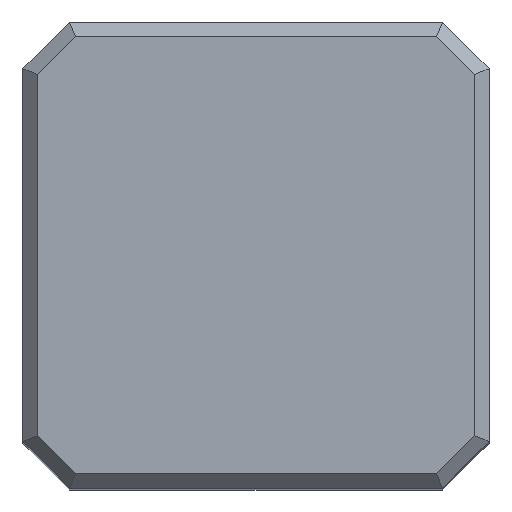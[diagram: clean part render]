
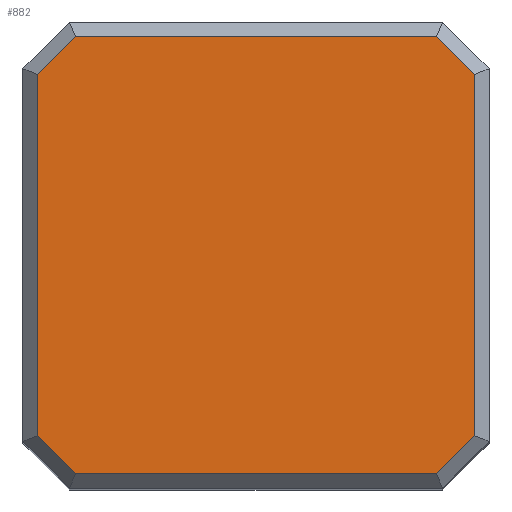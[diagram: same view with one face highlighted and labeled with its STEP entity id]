
A CAD part, top view. The second image highlights one B-rep face of the part: STEP entity #882.
In plain terms, the highlighted planar face has unit normal (0, 0, 1).
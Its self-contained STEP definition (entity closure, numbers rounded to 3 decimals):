
#144 = PLANE('',#145);
#145 = AXIS2_PLACEMENT_3D('',#146,#147,#148);
#146 = CARTESIAN_POINT('',(-6.3,-5.2,29.8));
#147 = DIRECTION('',(0.707,0.,-0.707));
#148 = DIRECTION('',(0.,1.,0.));
#176 = PLANE('',#177);
#177 = AXIS2_PLACEMENT_3D('',#178,#179,#180);
#178 = CARTESIAN_POINT('',(-6.359,-5.059,29.8));
#179 = DIRECTION('',(0.5,0.5,-0.707));
#180 = DIRECTION('',(0.707,-0.707,0.));
#327 = VERTEX_POINT('',#328);
#328 = CARTESIAN_POINT('',(-6.1,-5.034,30.));
#351 = VERTEX_POINT('',#352);
#352 = CARTESIAN_POINT('',(-6.1,5.034,30.));
#366 = PLANE('',#367);
#367 = AXIS2_PLACEMENT_3D('',#368,#369,#370);
#368 = CARTESIAN_POINT('',(-6.359,5.059,29.8));
#369 = DIRECTION('',(-0.5,0.5,0.707));
#370 = DIRECTION('',(0.707,0.707,0.)
  );
#378 = EDGE_CURVE('',#327,#351,#379,.T.);
#379 = SURFACE_CURVE('',#380,(#384,#391),.PCURVE_S1.);
#380 = LINE('',#381,#382);
#381 = CARTESIAN_POINT('',(-6.1,-5.2,30.));
#382 = VECTOR('',#383,1.);
#383 = DIRECTION('',(-0.,1.,0.));
#384 = PCURVE('',#144,#385);
#385 = DEFINITIONAL_REPRESENTATION('',(#386),#390);
#386 = LINE('',#387,#388);
#387 = CARTESIAN_POINT('',(0.,0.283));
#388 = VECTOR('',#389,1.);
#389 = DIRECTION('',(1.,0.));
#390 = ( GEOMETRIC_REPRESENTATION_CONTEXT(2) 
PARAMETRIC_REPRESENTATION_CONTEXT() REPRESENTATION_CONTEXT('2D SPACE',''
  ) );
#391 = PCURVE('',#392,#397);
#392 = PLANE('',#393);
#393 = AXIS2_PLACEMENT_3D('',#394,#395,#396);
#394 = CARTESIAN_POINT('',(-6.5,-6.5,30.));
#395 = DIRECTION('',(0.,0.,1.));
#396 = DIRECTION('',(1.,0.,-0.));
#397 = DEFINITIONAL_REPRESENTATION('',(#398),#402);
#398 = LINE('',#399,#400);
#399 = CARTESIAN_POINT('',(0.4,1.3));
#400 = VECTOR('',#401,1.);
#401 = DIRECTION('',(0.,1.));
#402 = ( GEOMETRIC_REPRESENTATION_CONTEXT(2) 
PARAMETRIC_REPRESENTATION_CONTEXT() REPRESENTATION_CONTEXT('2D SPACE',''
  ) );
#538 = EDGE_CURVE('',#327,#539,#541,.T.);
#539 = VERTEX_POINT('',#540);
#540 = CARTESIAN_POINT('',(-5.034,-6.1,30.));
#541 = SURFACE_CURVE('',#542,(#546,#553),.PCURVE_S1.);
#542 = LINE('',#543,#544);
#543 = CARTESIAN_POINT('',(-6.217,-4.917,30.));
#544 = VECTOR('',#545,1.);
#545 = DIRECTION('',(0.707,-0.707,0.));
#546 = PCURVE('',#176,#547);
#547 = DEFINITIONAL_REPRESENTATION('',(#548),#552);
#548 = LINE('',#549,#550);
#549 = CARTESIAN_POINT('',(0.,-0.283));
#550 = VECTOR('',#551,1.);
#551 = DIRECTION('',(1.,0.));
#552 = ( GEOMETRIC_REPRESENTATION_CONTEXT(2) 
PARAMETRIC_REPRESENTATION_CONTEXT() REPRESENTATION_CONTEXT('2D SPACE',''
  ) );
#553 = PCURVE('',#392,#554);
#554 = DEFINITIONAL_REPRESENTATION('',(#555),#559);
#555 = LINE('',#556,#557);
#556 = CARTESIAN_POINT('',(0.283,1.583));
#557 = VECTOR('',#558,1.);
#558 = DIRECTION('',(0.707,-0.707));
#559 = ( GEOMETRIC_REPRESENTATION_CONTEXT(2) 
PARAMETRIC_REPRESENTATION_CONTEXT() REPRESENTATION_CONTEXT('2D SPACE',''
  ) );
#575 = PLANE('',#576);
#576 = AXIS2_PLACEMENT_3D('',#577,#578,#579);
#577 = CARTESIAN_POINT('',(-5.2,-6.3,29.8));
#578 = DIRECTION('',(0.,0.707,-0.707));
#579 = DIRECTION('',(1.,-0.,0.));
#882 = ADVANCED_FACE('',(#883),#392,.T.);
#883 = FACE_BOUND('',#884,.T.);
#884 = EDGE_LOOP('',(#885,#886,#887,#910,#938,#966,#994,#1022));
#885 = ORIENTED_EDGE('',*,*,#378,.F.);
#886 = ORIENTED_EDGE('',*,*,#538,.T.);
#887 = ORIENTED_EDGE('',*,*,#888,.T.);
#888 = EDGE_CURVE('',#539,#889,#891,.T.);
#889 = VERTEX_POINT('',#890);
#890 = CARTESIAN_POINT('',(5.034,-6.1,30.));
#891 = SURFACE_CURVE('',#892,(#896,#903),.PCURVE_S1.);
#892 = LINE('',#893,#894);
#893 = CARTESIAN_POINT('',(-5.2,-6.1,30.));
#894 = VECTOR('',#895,1.);
#895 = DIRECTION('',(1.,0.,-0.));
#896 = PCURVE('',#392,#897);
#897 = DEFINITIONAL_REPRESENTATION('',(#898),#902);
#898 = LINE('',#899,#900);
#899 = CARTESIAN_POINT('',(1.3,0.4));
#900 = VECTOR('',#901,1.);
#901 = DIRECTION('',(1.,0.));
#902 = ( GEOMETRIC_REPRESENTATION_CONTEXT(2) 
PARAMETRIC_REPRESENTATION_CONTEXT() REPRESENTATION_CONTEXT('2D SPACE',''
  ) );
#903 = PCURVE('',#575,#904);
#904 = DEFINITIONAL_REPRESENTATION('',(#905),#909);
#905 = LINE('',#906,#907);
#906 = CARTESIAN_POINT('',(0.,-0.283));
#907 = VECTOR('',#908,1.);
#908 = DIRECTION('',(1.,0.));
#909 = ( GEOMETRIC_REPRESENTATION_CONTEXT(2) 
PARAMETRIC_REPRESENTATION_CONTEXT() REPRESENTATION_CONTEXT('2D SPACE',''
  ) );
#910 = ORIENTED_EDGE('',*,*,#911,.F.);
#911 = EDGE_CURVE('',#912,#889,#914,.T.);
#912 = VERTEX_POINT('',#913);
#913 = CARTESIAN_POINT('',(6.1,-5.034,30.));
#914 = SURFACE_CURVE('',#915,(#919,#926),.PCURVE_S1.);
#915 = LINE('',#916,#917);
#916 = CARTESIAN_POINT('',(6.217,-4.917,30.));
#917 = VECTOR('',#918,1.);
#918 = DIRECTION('',(-0.707,-0.707,0.));
#919 = PCURVE('',#392,#920);
#920 = DEFINITIONAL_REPRESENTATION('',(#921),#925);
#921 = LINE('',#922,#923);
#922 = CARTESIAN_POINT('',(12.717,1.583));
#923 = VECTOR('',#924,1.);
#924 = DIRECTION('',(-0.707,-0.707));
#925 = ( GEOMETRIC_REPRESENTATION_CONTEXT(2) 
PARAMETRIC_REPRESENTATION_CONTEXT() REPRESENTATION_CONTEXT('2D SPACE',''
  ) );
#926 = PCURVE('',#927,#932);
#927 = PLANE('',#928);
#928 = AXIS2_PLACEMENT_3D('',#929,#930,#931);
#929 = CARTESIAN_POINT('',(6.359,-5.059,29.8));
#930 = DIRECTION('',(0.5,-0.5,0.707));
#931 = DIRECTION('',(-0.707,-0.707,0.));
#932 = DEFINITIONAL_REPRESENTATION('',(#933),#937);
#933 = LINE('',#934,#935);
#934 = CARTESIAN_POINT('',(0.,-0.283));
#935 = VECTOR('',#936,1.);
#936 = DIRECTION('',(1.,0.));
#937 = ( GEOMETRIC_REPRESENTATION_CONTEXT(2) 
PARAMETRIC_REPRESENTATION_CONTEXT() REPRESENTATION_CONTEXT('2D SPACE',''
  ) );
#938 = ORIENTED_EDGE('',*,*,#939,.T.);
#939 = EDGE_CURVE('',#912,#940,#942,.T.);
#940 = VERTEX_POINT('',#941);
#941 = CARTESIAN_POINT('',(6.1,5.034,30.));
#942 = SURFACE_CURVE('',#943,(#947,#954),.PCURVE_S1.);
#943 = LINE('',#944,#945);
#944 = CARTESIAN_POINT('',(6.1,-5.2,30.));
#945 = VECTOR('',#946,1.);
#946 = DIRECTION('',(-0.,1.,0.));
#947 = PCURVE('',#392,#948);
#948 = DEFINITIONAL_REPRESENTATION('',(#949),#953);
#949 = LINE('',#950,#951);
#950 = CARTESIAN_POINT('',(12.6,1.3));
#951 = VECTOR('',#952,1.);
#952 = DIRECTION('',(0.,1.));
#953 = ( GEOMETRIC_REPRESENTATION_CONTEXT(2) 
PARAMETRIC_REPRESENTATION_CONTEXT() REPRESENTATION_CONTEXT('2D SPACE',''
  ) );
#954 = PCURVE('',#955,#960);
#955 = PLANE('',#956);
#956 = AXIS2_PLACEMENT_3D('',#957,#958,#959);
#957 = CARTESIAN_POINT('',(6.3,-5.2,29.8));
#958 = DIRECTION('',(0.707,0.,0.707));
#959 = DIRECTION('',(0.,-1.,-0.));
#960 = DEFINITIONAL_REPRESENTATION('',(#961),#965);
#961 = LINE('',#962,#963);
#962 = CARTESIAN_POINT('',(-0.,-0.283));
#963 = VECTOR('',#964,1.);
#964 = DIRECTION('',(-1.,0.));
#965 = ( GEOMETRIC_REPRESENTATION_CONTEXT(2) 
PARAMETRIC_REPRESENTATION_CONTEXT() REPRESENTATION_CONTEXT('2D SPACE',''
  ) );
#966 = ORIENTED_EDGE('',*,*,#967,.T.);
#967 = EDGE_CURVE('',#940,#968,#970,.T.);
#968 = VERTEX_POINT('',#969);
#969 = CARTESIAN_POINT('',(5.034,6.1,30.));
#970 = SURFACE_CURVE('',#971,(#975,#982),.PCURVE_S1.);
#971 = LINE('',#972,#973);
#972 = CARTESIAN_POINT('',(6.217,4.917,30.));
#973 = VECTOR('',#974,1.);
#974 = DIRECTION('',(-0.707,0.707,0.));
#975 = PCURVE('',#392,#976);
#976 = DEFINITIONAL_REPRESENTATION('',(#977),#981);
#977 = LINE('',#978,#979);
#978 = CARTESIAN_POINT('',(12.717,11.417));
#979 = VECTOR('',#980,1.);
#980 = DIRECTION('',(-0.707,0.707));
#981 = ( GEOMETRIC_REPRESENTATION_CONTEXT(2) 
PARAMETRIC_REPRESENTATION_CONTEXT() REPRESENTATION_CONTEXT('2D SPACE',''
  ) );
#982 = PCURVE('',#983,#988);
#983 = PLANE('',#984);
#984 = AXIS2_PLACEMENT_3D('',#985,#986,#987);
#985 = CARTESIAN_POINT('',(6.359,5.059,29.8));
#986 = DIRECTION('',(-0.5,-0.5,-0.707));
#987 = DIRECTION('',(-0.707,0.707,0.));
#988 = DEFINITIONAL_REPRESENTATION('',(#989),#993);
#989 = LINE('',#990,#991);
#990 = CARTESIAN_POINT('',(0.,-0.283));
#991 = VECTOR('',#992,1.);
#992 = DIRECTION('',(1.,0.));
#993 = ( GEOMETRIC_REPRESENTATION_CONTEXT(2) 
PARAMETRIC_REPRESENTATION_CONTEXT() REPRESENTATION_CONTEXT('2D SPACE',''
  ) );
#994 = ORIENTED_EDGE('',*,*,#995,.F.);
#995 = EDGE_CURVE('',#996,#968,#998,.T.);
#996 = VERTEX_POINT('',#997);
#997 = CARTESIAN_POINT('',(-5.034,6.1,30.));
#998 = SURFACE_CURVE('',#999,(#1003,#1010),.PCURVE_S1.);
#999 = LINE('',#1000,#1001);
#1000 = CARTESIAN_POINT('',(-5.2,6.1,30.));
#1001 = VECTOR('',#1002,1.);
#1002 = DIRECTION('',(1.,0.,-0.));
#1003 = PCURVE('',#392,#1004);
#1004 = DEFINITIONAL_REPRESENTATION('',(#1005),#1009);
#1005 = LINE('',#1006,#1007);
#1006 = CARTESIAN_POINT('',(1.3,12.6));
#1007 = VECTOR('',#1008,1.);
#1008 = DIRECTION('',(1.,0.));
#1009 = ( GEOMETRIC_REPRESENTATION_CONTEXT(2) 
PARAMETRIC_REPRESENTATION_CONTEXT() REPRESENTATION_CONTEXT('2D SPACE',''
  ) );
#1010 = PCURVE('',#1011,#1016);
#1011 = PLANE('',#1012);
#1012 = AXIS2_PLACEMENT_3D('',#1013,#1014,#1015);
#1013 = CARTESIAN_POINT('',(-5.2,6.3,29.8));
#1014 = DIRECTION('',(0.,0.707,0.707));
#1015 = DIRECTION('',(1.,0.,-0.));
#1016 = DEFINITIONAL_REPRESENTATION('',(#1017),#1021);
#1017 = LINE('',#1018,#1019);
#1018 = CARTESIAN_POINT('',(0.,-0.283));
#1019 = VECTOR('',#1020,1.);
#1020 = DIRECTION('',(1.,0.));
#1021 = ( GEOMETRIC_REPRESENTATION_CONTEXT(2) 
PARAMETRIC_REPRESENTATION_CONTEXT() REPRESENTATION_CONTEXT('2D SPACE',''
  ) );
#1022 = ORIENTED_EDGE('',*,*,#1023,.F.);
#1023 = EDGE_CURVE('',#351,#996,#1024,.T.);
#1024 = SURFACE_CURVE('',#1025,(#1029,#1036),.PCURVE_S1.);
#1025 = LINE('',#1026,#1027);
#1026 = CARTESIAN_POINT('',(-6.217,4.917,30.));
#1027 = VECTOR('',#1028,1.);
#1028 = DIRECTION('',(0.707,0.707,-0.));
#1029 = PCURVE('',#392,#1030);
#1030 = DEFINITIONAL_REPRESENTATION('',(#1031),#1035);
#1031 = LINE('',#1032,#1033);
#1032 = CARTESIAN_POINT('',(0.283,11.417));
#1033 = VECTOR('',#1034,1.);
#1034 = DIRECTION('',(0.707,0.707));
#1035 = ( GEOMETRIC_REPRESENTATION_CONTEXT(2) 
PARAMETRIC_REPRESENTATION_CONTEXT() REPRESENTATION_CONTEXT('2D SPACE',''
  ) );
#1036 = PCURVE('',#366,#1037);
#1037 = DEFINITIONAL_REPRESENTATION('',(#1038),#1042);
#1038 = LINE('',#1039,#1040);
#1039 = CARTESIAN_POINT('',(0.,-0.283));
#1040 = VECTOR('',#1041,1.);
#1041 = DIRECTION('',(1.,0.));
#1042 = ( GEOMETRIC_REPRESENTATION_CONTEXT(2) 
PARAMETRIC_REPRESENTATION_CONTEXT() REPRESENTATION_CONTEXT('2D SPACE',''
  ) );
